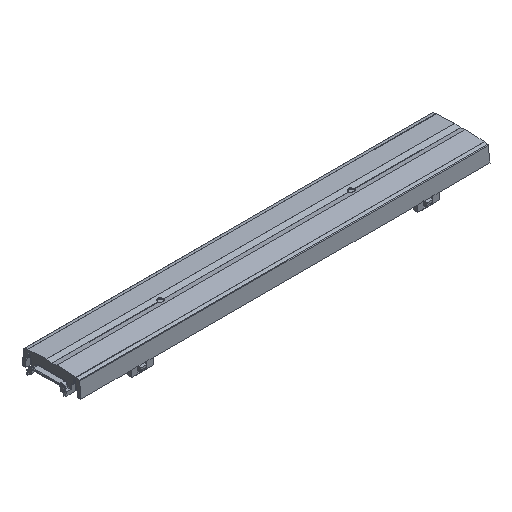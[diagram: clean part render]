
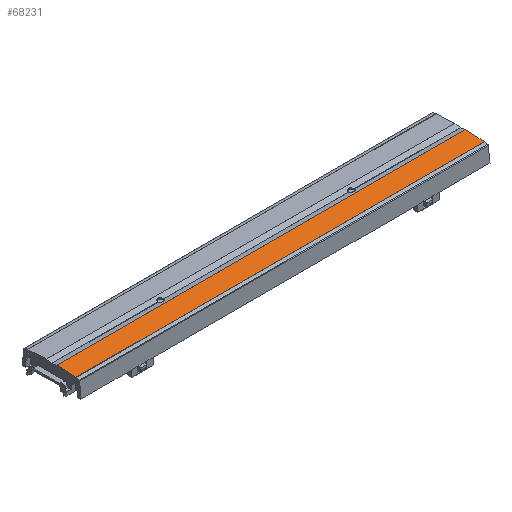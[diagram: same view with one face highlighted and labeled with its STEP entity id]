
A CAD part, isometric view. The second image highlights one B-rep face of the part: STEP entity #68231.
In plain terms, the highlighted planar face has unit normal (0, -0.064, 0.998).
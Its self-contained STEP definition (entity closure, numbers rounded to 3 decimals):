
#28571=CARTESIAN_POINT(' ',(139.285,-3.529,10.298));
#28572=VERTEX_POINT(' ',#28571);
#28586=CARTESIAN_POINT(' ',(139.285,-3.529,10.298));
#28591=DIRECTION(' ',(0.002,-0.998,-0.064));
#28596=VECTOR(' ',#28591,1.);
#28601=LINE('',#28586,#28596);
#28606=CARTESIAN_POINT(' ',(139.313,-16.44,9.468));
#28607=VERTEX_POINT(' ',#28606);
#28611=EDGE_CURVE(' ',#28572,#28607,#28601,.T.);
#30506=CARTESIAN_POINT(' ',(-139.313,-16.44,9.468));
#30507=VERTEX_POINT(' ',#30506);
#30521=CARTESIAN_POINT(' ',(-139.285,-3.529,10.298));
#30526=DIRECTION(' ',(-0.002,-0.998,-0.064));
#30531=VECTOR(' ',#30526,1.);
#30536=LINE('',#30521,#30531);
#30541=CARTESIAN_POINT(' ',(-139.285,-3.529,10.298));
#30542=VERTEX_POINT(' ',#30541);
#30546=EDGE_CURVE(' ',#30542,#30507,#30536,.T.);
#67986=CARTESIAN_POINT(' ',(139.285,-3.529,10.298));
#67991=DIRECTION(' ',(-1.,0.,0.));
#67996=VECTOR(' ',#67991,1.);
#68001=LINE('',#67986,#67996);
#68006=EDGE_CURVE(' ',#28572,#30542,#68001,.T.);
#68151=DIRECTION(' ',(-0.,-0.064,0.998));
#68156=CARTESIAN_POINT(' ',(-139.313,-16.44,9.468));
#68161=DIRECTION(' ',(1.,-0.,0.));
#68166=AXIS2_PLACEMENT_3D(' ',#68156,#68151,#68161);
#68171=PLANE('',#68166);
#68176=CARTESIAN_POINT(' ',(-139.313,-16.44,9.468));
#68181=DIRECTION(' ',(1.,0.,0.));
#68186=VECTOR(' ',#68181,1.);
#68191=LINE('',#68176,#68186);
#68196=EDGE_CURVE(' ',#30507,#28607,#68191,.T.);
#68201=ORIENTED_EDGE(' ',*,*,#68196,.T.);
#68206=ORIENTED_EDGE(' ',*,*,#28611,.F.);
#68211=ORIENTED_EDGE(' ',*,*,#68006,.T.);
#68216=ORIENTED_EDGE(' ',*,*,#30546,.T.);
#68221=EDGE_LOOP(' ',(#68201,#68206,#68211,#68216));
#68226=FACE_OUTER_BOUND(' ',#68221,.T.);
#68231=ADVANCED_FACE('',(#68226),#68171,.T.);
